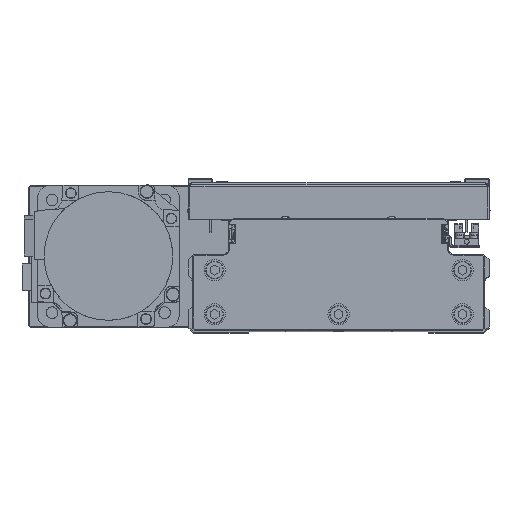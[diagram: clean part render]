
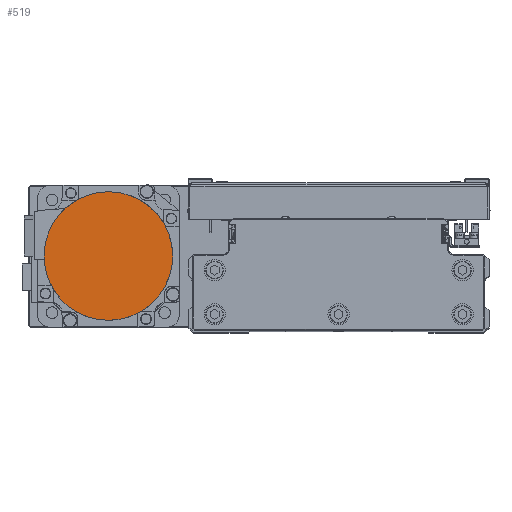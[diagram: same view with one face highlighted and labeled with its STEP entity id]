
A CAD part, top view. The second image highlights one B-rep face of the part: STEP entity #519.
In plain terms, the highlighted planar face has unit normal (0, 0, 1) as drawn and (0, 0, -1) by its records, which use the part's own axes.
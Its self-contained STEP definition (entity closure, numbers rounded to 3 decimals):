
#213 = CARTESIAN_POINT ( 'NONE',  ( -18.192, -31.502, -122.2 ) ) ;
#519 = ADVANCED_FACE ( 'NONE', ( #41292 ), #10877, .F. ) ;
#1258 = CARTESIAN_POINT ( 'NONE',  ( 0., 36.3, -122.2 ) ) ;
#1463 = CARTESIAN_POINT ( 'NONE',  ( -34.446, 11.696, -122.2 ) ) ;
#3215 = CARTESIAN_POINT ( 'NONE',  ( 0., 0., -122.2 ) ) ;
#3543 = CARTESIAN_POINT ( 'NONE',  ( -27.348, -23.988, -122.2 ) ) ;
#3584 = CARTESIAN_POINT ( 'NONE',  ( -36.3, 0., -122.2 ) ) ;
#4787 = CARTESIAN_POINT ( 'NONE',  ( -28.862, 22.143, -122.2 ) ) ;
#5145 = AXIS2_PLACEMENT_3D ( 'NONE', #24454, #37980, #7556 ) ;
#6154 = VERTEX_POINT ( 'NONE', #3584 ) ;
#6870 = CARTESIAN_POINT ( 'NONE',  ( -32.628, -16.086, -122.2 ) ) ;
#7556 = DIRECTION ( 'NONE',  ( 1., 0., 0. ) ) ;
#8017 = ORIENTED_EDGE ( 'NONE', *, *, #20176, .F. ) ;
#8111 = CARTESIAN_POINT ( 'NONE',  ( -22.143, 28.862, -122.2 ) ) ;
#10177 = CARTESIAN_POINT ( 'NONE',  ( -36.066, -4.752, -122.2 ) ) ;
#10261 = DIRECTION ( 'NONE',  ( 0., 0., 1. ) ) ;
#10407 = CARTESIAN_POINT ( 'NONE',  ( -4.752, -36.066, -122.2 ) ) ;
#10476 = B_SPLINE_CURVE_WITH_KNOTS ( 'NONE', 3,
 ( #1258, #14778, #28344, #41862, #11444, #25024, #38532, #8111, #21668, #35204, #4787, #18308, #31871, #1463, #14988, #28566, #42081, #11659 ),
 .UNSPECIFIED., .F., .F.,
 ( 4, 2, 2, 2, 2, 2, 2, 2, 4 ),
 ( 0., 0.125, 0.25, 0.375, 0.5, 0.625, 0.75, 0.875, 1. ),
 .UNSPECIFIED. ) ;
#10877 = PLANE ( 'NONE',  #5145 ) ;
#11444 = CARTESIAN_POINT ( 'NONE',  ( -11.696, 34.446, -122.2 ) ) ;
#11659 = CARTESIAN_POINT ( 'NONE',  ( -36.3, 0., -122.2 ) ) ;
#13106 = CIRCLE ( 'NONE', #43609, 36.3 ) ;
#13509 = B_SPLINE_CURVE_WITH_KNOTS ( 'NONE', 3,
 ( #27090, #40596, #10177, #23757, #37283, #6870, #20409, #33960, #3543, #17052, #30634, #213, #13736, #27320, #40823, #10407, #23983, #37501 ),
 .UNSPECIFIED., .F., .F.,
 ( 4, 2, 2, 2, 2, 2, 2, 2, 4 ),
 ( 0., 0.125, 0.25, 0.375, 0.5, 0.625, 0.75, 0.875, 1. ),
 .UNSPECIFIED. ) ;
#13593 = EDGE_CURVE ( 'NONE', #41399, #33095, #36247, .T. ) ;
#13736 = CARTESIAN_POINT ( 'NONE',  ( -16.086, -32.628, -122.2 ) ) ;
#14189 = EDGE_LOOP ( 'NONE', ( #14906, #19645, #8017, #28743 ) ) ;
#14778 = CARTESIAN_POINT ( 'NONE',  ( -2.376, 36.3, -122.2 ) ) ;
#14906 = ORIENTED_EDGE ( 'NONE', *, *, #19155, .F. ) ;
#14988 = CARTESIAN_POINT ( 'NONE',  ( -35.139, 9.412, -122.2 ) ) ;
#16730 = DIRECTION ( 'NONE',  ( 0., 0., 1. ) ) ;
#17052 = CARTESIAN_POINT ( 'NONE',  ( -23.988, -27.348, -122.2 ) ) ;
#17099 = AXIS2_PLACEMENT_3D ( 'NONE', #40674, #10261, #23841 ) ;
#18308 = CARTESIAN_POINT ( 'NONE',  ( -31.502, 18.192, -122.2 ) ) ;
#19155 = EDGE_CURVE ( 'NONE', #30710, #41399, #13106, .T. ) ;
#19645 = ORIENTED_EDGE ( 'NONE', *, *, #42989, .F. ) ;
#20176 = EDGE_CURVE ( 'NONE', #33095, #6154, #10476, .T. ) ;
#20409 = CARTESIAN_POINT ( 'NONE',  ( -31.502, -18.192, -122.2 ) ) ;
#21668 = CARTESIAN_POINT ( 'NONE',  ( -23.988, 27.348, -122.2 ) ) ;
#23757 = CARTESIAN_POINT ( 'NONE',  ( -35.139, -9.412, -122.2 ) ) ;
#23841 = DIRECTION ( 'NONE',  ( -1., 0., 0. ) ) ;
#23983 = CARTESIAN_POINT ( 'NONE',  ( -2.376, -36.3, -122.2 ) ) ;
#24454 = CARTESIAN_POINT ( 'NONE',  ( 0., 0., -122.2 ) ) ;
#25024 = CARTESIAN_POINT ( 'NONE',  ( -16.086, 32.628, -122.2 ) ) ;
#26369 = CARTESIAN_POINT ( 'NONE',  ( 0., 36.3, -122.2 ) ) ;
#27090 = CARTESIAN_POINT ( 'NONE',  ( -36.3, 0., -122.2 ) ) ;
#27320 = CARTESIAN_POINT ( 'NONE',  ( -11.696, -34.446, -122.2 ) ) ;
#28344 = CARTESIAN_POINT ( 'NONE',  ( -4.752, 36.066, -122.2 ) ) ;
#28566 = CARTESIAN_POINT ( 'NONE',  ( -36.066, 4.752, -122.2 ) ) ;
#28743 = ORIENTED_EDGE ( 'NONE', *, *, #13593, .F. ) ;
#30298 = DIRECTION ( 'NONE',  ( -1., 0., 0. ) ) ;
#30634 = CARTESIAN_POINT ( 'NONE',  ( -22.143, -28.862, -122.2 ) ) ;
#30710 = VERTEX_POINT ( 'NONE', #41125 ) ;
#31871 = CARTESIAN_POINT ( 'NONE',  ( -32.628, 16.086, -122.2 ) ) ;
#33095 = VERTEX_POINT ( 'NONE', #26369 ) ;
#33960 = CARTESIAN_POINT ( 'NONE',  ( -28.862, -22.143, -122.2 ) ) ;
#34336 = CARTESIAN_POINT ( 'NONE',  ( 36.3, 0., -122.2 ) ) ;
#35204 = CARTESIAN_POINT ( 'NONE',  ( -27.348, 23.988, -122.2 ) ) ;
#36247 = CIRCLE ( 'NONE', #17099, 36.3 ) ;
#37283 = CARTESIAN_POINT ( 'NONE',  ( -34.446, -11.696, -122.2 ) ) ;
#37501 = CARTESIAN_POINT ( 'NONE',  ( 0., -36.3, -122.2 ) ) ;
#37980 = DIRECTION ( 'NONE',  ( 0., 0., 1. ) ) ;
#38532 = CARTESIAN_POINT ( 'NONE',  ( -18.192, 31.502, -122.2 ) ) ;
#40596 = CARTESIAN_POINT ( 'NONE',  ( -36.3, -2.376, -122.2 ) ) ;
#40674 = CARTESIAN_POINT ( 'NONE',  ( 0., 0., -122.2 ) ) ;
#40823 = CARTESIAN_POINT ( 'NONE',  ( -9.412, -35.139, -122.2 ) ) ;
#41125 = CARTESIAN_POINT ( 'NONE',  ( 0., -36.3, -122.2 ) ) ;
#41292 = FACE_OUTER_BOUND ( 'NONE', #14189, .T. ) ;
#41399 = VERTEX_POINT ( 'NONE', #34336 ) ;
#41862 = CARTESIAN_POINT ( 'NONE',  ( -9.412, 35.139, -122.2 ) ) ;
#42081 = CARTESIAN_POINT ( 'NONE',  ( -36.3, 2.376, -122.2 ) ) ;
#42989 = EDGE_CURVE ( 'NONE', #6154, #30710, #13509, .T. ) ;
#43609 = AXIS2_PLACEMENT_3D ( 'NONE', #3215, #16730, #30298 ) ;
